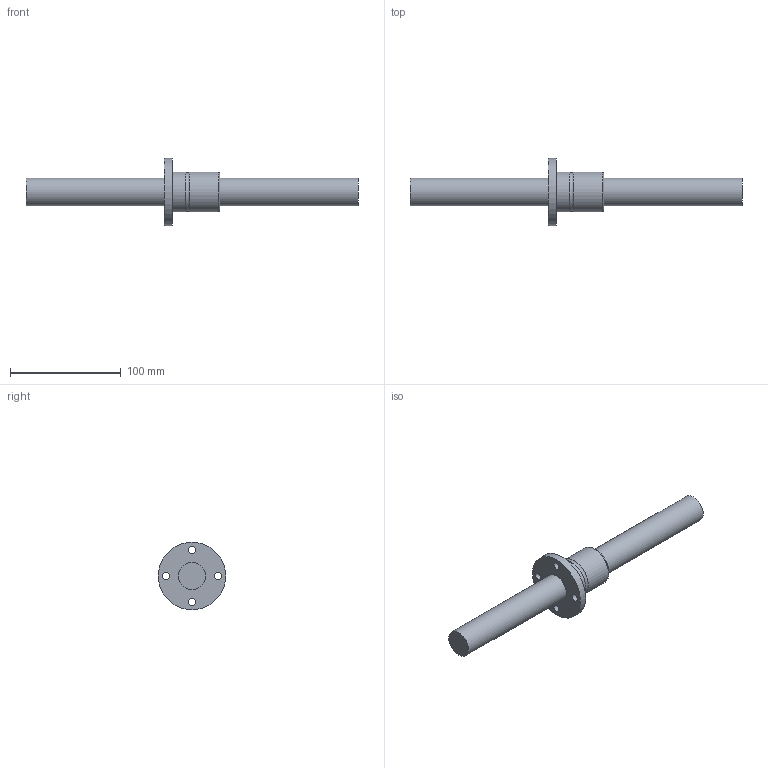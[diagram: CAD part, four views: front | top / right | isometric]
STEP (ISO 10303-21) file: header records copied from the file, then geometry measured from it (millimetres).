
FILE_DESCRIPTION((''),'2;1');
FILE_NAME('D:\製品 (図面)\カタログ用3D\ネジ関連\STEP形式\TMF-OH\TMF25-OH.stp','2010-06-02T15:14:32',('Tsuchiya'),(''),'Autodesk Inventor 10','Autodesk Inventor 10','');
FILE_SCHEMA(('AUTOMOTIVE_DESIGN { 1 0 10303 214 1 1 1 1 }'));
Length unit declared in the file: millimetre
Products named in the file (3): TMF25-OH; TMF25-OH1; TMF25-OH2
Assembly tree (2 placements, depth 2):
  TMF25-OH
    TMF25-OH1
    TMF25-OH2
Bounding box: 300 x 61 x 61 mm (x, y, z)
Volume: 185728.2 mm3; surface area: 39806.5 mm2
Topology: 2 solids, 2 shells, 18 faces, 40 edges, 27 vertices
Faces by surface type: cylinder 10, plane 5, bspline 2, torus 1
Full cylindrical faces by diameter (mm): 2.5 x1, 6.6 x4, 25 x2, 36 x2, 61 x1
Entity records: 714 total; most frequent: CARTESIAN_POINT 291, DIRECTION 82, ORIENTED_EDGE 44, EDGE_LOOP 44, AXIS2_PLACEMENT_3D 41, FACE_BOUND 26, VERTEX_POINT 22, EDGE_CURVE 22
